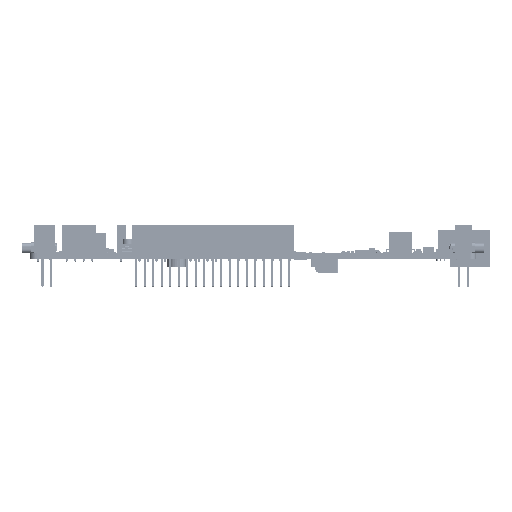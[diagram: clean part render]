
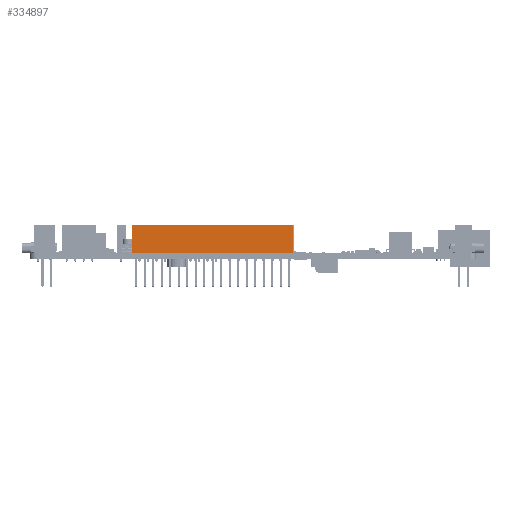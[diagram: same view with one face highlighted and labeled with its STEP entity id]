
A CAD part, left-side view. The second image highlights one B-rep face of the part: STEP entity #334897.
In plain terms, the highlighted planar face has unit normal (-1, 0, 0).
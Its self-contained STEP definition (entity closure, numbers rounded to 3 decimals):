
#334799 = EDGE_CURVE('',#334800,#334802,#334804,.T.);
#334800 = VERTEX_POINT('',#334801);
#334801 = CARTESIAN_POINT('',(-2.545,24.132,0.));
#334802 = VERTEX_POINT('',#334803);
#334803 = CARTESIAN_POINT('',(-2.545,24.132,8.38));
#334804 = LINE('',#334805,#334806);
#334805 = CARTESIAN_POINT('',(-2.545,24.132,0.));
#334806 = VECTOR('',#334807,1.);
#334807 = DIRECTION('',(0.,0.,1.));
#334872 = VERTEX_POINT('',#334873);
#334873 = CARTESIAN_POINT('',(-2.545,-24.132,8.38));
#334879 = EDGE_CURVE('',#334880,#334872,#334882,.T.);
#334880 = VERTEX_POINT('',#334881);
#334881 = CARTESIAN_POINT('',(-2.545,-24.132,0.));
#334882 = LINE('',#334883,#334884);
#334883 = CARTESIAN_POINT('',(-2.545,-24.132,0.));
#334884 = VECTOR('',#334885,1.);
#334885 = DIRECTION('',(0.,0.,1.));
#334897 = ADVANCED_FACE('',(#334898),#334914,.T.);
#334898 = FACE_BOUND('',#334899,.T.);
#334899 = EDGE_LOOP('',(#334900,#334901,#334907,#334908));
#334900 = ORIENTED_EDGE('',*,*,#334879,.T.);
#334901 = ORIENTED_EDGE('',*,*,#334902,.T.);
#334902 = EDGE_CURVE('',#334872,#334802,#334903,.T.);
#334903 = LINE('',#334904,#334905);
#334904 = CARTESIAN_POINT('',(-2.545,-24.132,8.38));
#334905 = VECTOR('',#334906,1.);
#334906 = DIRECTION('',(0.,1.,0.));
#334907 = ORIENTED_EDGE('',*,*,#334799,.F.);
#334908 = ORIENTED_EDGE('',*,*,#334909,.F.);
#334909 = EDGE_CURVE('',#334880,#334800,#334910,.T.);
#334910 = LINE('',#334911,#334912);
#334911 = CARTESIAN_POINT('',(-2.545,-24.132,0.));
#334912 = VECTOR('',#334913,1.);
#334913 = DIRECTION('',(0.,1.,0.));
#334914 = PLANE('',#334915);
#334915 = AXIS2_PLACEMENT_3D('',#334916,#334917,#334918);
#334916 = CARTESIAN_POINT('',(-2.545,-24.132,0.));
#334917 = DIRECTION('',(-1.,0.,0.));
#334918 = DIRECTION('',(0.,1.,0.));
